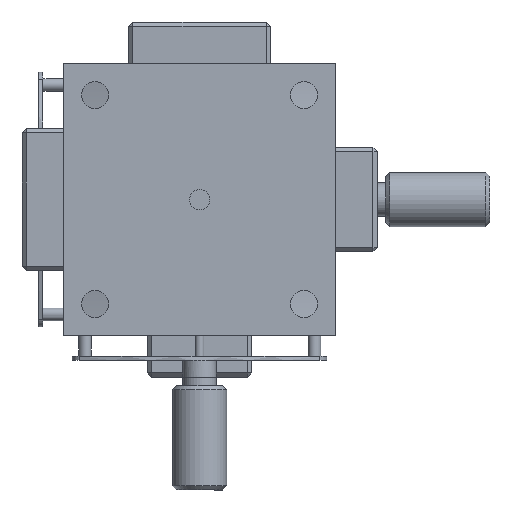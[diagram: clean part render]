
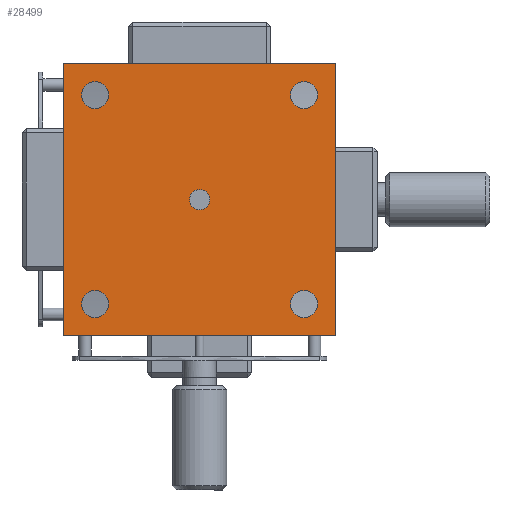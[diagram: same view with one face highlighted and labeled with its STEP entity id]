
A CAD part, front view. The second image highlights one B-rep face of the part: STEP entity #28499.
In plain terms, the highlighted planar face has unit normal (0, -1, 0).
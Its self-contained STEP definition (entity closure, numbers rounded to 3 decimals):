
#517 = ORIENTED_EDGE ( 'NONE', *, *, #14656, .F. ) ;
#701 = EDGE_LOOP ( 'NONE', ( #517, #11171 ) ) ;
#1220 = CARTESIAN_POINT ( 'NONE',  ( -34.151, 35.938, 144.111 ) ) ;
#1322 = EDGE_CURVE ( 'NONE', #36167, #20614, #3690, .T. ) ;
#1500 = EDGE_CURVE ( 'NONE', #2529, #21094, #21735, .T. ) ;
#1939 = DIRECTION ( 'NONE',  ( 0., -1., 0. ) ) ;
#2145 = LINE ( 'NONE', #20033, #6942 ) ;
#2214 = FACE_BOUND ( 'NONE', #24524, .T. ) ;
#2395 = AXIS2_PLACEMENT_3D ( 'NONE', #11264, #33134, #5689 ) ;
#2529 = VERTEX_POINT ( 'NONE', #18634 ) ;
#2792 = CARTESIAN_POINT ( 'NONE',  ( -26.651, 35.938, 86.611 ) ) ;
#2854 = AXIS2_PLACEMENT_3D ( 'NONE', #29138, #19703, #13527 ) ;
#3254 = LINE ( 'NONE', #18429, #28510 ) ;
#3690 = LINE ( 'NONE', #18434, #32723 ) ;
#4957 = ORIENTED_EDGE ( 'NONE', *, *, #19247, .F. ) ;
#4979 = CARTESIAN_POINT ( 'NONE',  ( 23.349, 35.938, 89.861 ) ) ;
#5406 = AXIS2_PLACEMENT_3D ( 'NONE', #2792, #33042, #36261 ) ;
#5473 = PLANE ( 'NONE',  #36089 ) ;
#5518 = VECTOR ( 'NONE', #32287, 1000. ) ;
#5555 = CIRCLE ( 'NONE', #34931, 3.25 ) ;
#5689 = DIRECTION ( 'NONE',  ( 0., 0., -1. ) ) ;
#5722 = CARTESIAN_POINT ( 'NONE',  ( -34.151, 35.938, 144.111 ) ) ;
#5887 = DIRECTION ( 'NONE',  ( 0., -1., 0. ) ) ;
#6031 = ORIENTED_EDGE ( 'NONE', *, *, #26373, .F. ) ;
#6508 = VERTEX_POINT ( 'NONE', #34906 ) ;
#6518 = CIRCLE ( 'NONE', #32472, 3.25 ) ;
#6942 = VECTOR ( 'NONE', #10474, 1000. ) ;
#7509 = VERTEX_POINT ( 'NONE', #35705 ) ;
#7979 = AXIS2_PLACEMENT_3D ( 'NONE', #22416, #13093, #25488 ) ;
#8820 = DIRECTION ( 'NONE',  ( 0., 0., -1. ) ) ;
#9398 = CARTESIAN_POINT ( 'NONE',  ( -26.651, 35.938, 86.611 ) ) ;
#9965 = DIRECTION ( 'NONE',  ( 0., -1., 0. ) ) ;
#10096 = DIRECTION ( 'NONE',  ( 0., 0., -1. ) ) ;
#10328 = FACE_OUTER_BOUND ( 'NONE', #21288, .T. ) ;
#10474 = DIRECTION ( 'NONE',  ( 0., 0., -1. ) ) ;
#10862 = CARTESIAN_POINT ( 'NONE',  ( 23.349, 35.938, 86.611 ) ) ;
#11030 = CARTESIAN_POINT ( 'NONE',  ( -34.151, 35.938, 79.111 ) ) ;
#11056 = VERTEX_POINT ( 'NONE', #15256 ) ;
#11171 = ORIENTED_EDGE ( 'NONE', *, *, #37249, .F. ) ;
#11250 = VERTEX_POINT ( 'NONE', #13621 ) ;
#11264 = CARTESIAN_POINT ( 'NONE',  ( 23.349, 35.938, 136.611 ) ) ;
#11366 = CARTESIAN_POINT ( 'NONE',  ( -26.651, 35.938, 136.611 ) ) ;
#11436 = CARTESIAN_POINT ( 'NONE',  ( 23.349, 35.938, 83.361 ) ) ;
#11890 = DIRECTION ( 'NONE',  ( 0., 0., -1. ) ) ;
#12120 = ORIENTED_EDGE ( 'NONE', *, *, #1322, .F. ) ;
#12333 = EDGE_LOOP ( 'NONE', ( #28893, #29986 ) ) ;
#13006 = CIRCLE ( 'NONE', #19393, 2.425 ) ;
#13093 = DIRECTION ( 'NONE',  ( 0., -1., 0. ) ) ;
#13527 = DIRECTION ( 'NONE',  ( 0., 0., -1. ) ) ;
#13621 = CARTESIAN_POINT ( 'NONE',  ( 30.849, 35.938, 144.111 ) ) ;
#13876 = EDGE_CURVE ( 'NONE', #25840, #14395, #39012, .T. ) ;
#14003 = CIRCLE ( 'NONE', #15205, 3.25 ) ;
#14395 = VERTEX_POINT ( 'NONE', #29379 ) ;
#14409 = DIRECTION ( 'NONE',  ( 0., -1., 0. ) ) ;
#14422 = CIRCLE ( 'NONE', #20005, 2.425 ) ;
#14656 = EDGE_CURVE ( 'NONE', #37551, #37172, #33732, .T. ) ;
#14755 = EDGE_CURVE ( 'NONE', #21094, #2529, #6518, .T. ) ;
#15205 = AXIS2_PLACEMENT_3D ( 'NONE', #9398, #15897, #30721 ) ;
#15225 = CIRCLE ( 'NONE', #2854, 3.25 ) ;
#15256 = CARTESIAN_POINT ( 'NONE',  ( -1.651, 35.938, 109.186 ) ) ;
#15897 = DIRECTION ( 'NONE',  ( 0., -1., 0. ) ) ;
#16128 = AXIS2_PLACEMENT_3D ( 'NONE', #10862, #1939, #23063 ) ;
#17722 = DIRECTION ( 'NONE',  ( 0., 0., 1. ) ) ;
#17850 = ORIENTED_EDGE ( 'NONE', *, *, #22573, .F. ) ;
#17938 = EDGE_LOOP ( 'NONE', ( #38923, #17850 ) ) ;
#18144 = EDGE_CURVE ( 'NONE', #26033, #36167, #3254, .T. ) ;
#18429 = CARTESIAN_POINT ( 'NONE',  ( -34.151, 35.938, 79.111 ) ) ;
#18434 = CARTESIAN_POINT ( 'NONE',  ( -34.151, 35.938, 144.111 ) ) ;
#18634 = CARTESIAN_POINT ( 'NONE',  ( -26.651, 35.938, 139.861 ) ) ;
#18845 = DIRECTION ( 'NONE',  ( 0., -1., 0. ) ) ;
#19247 = EDGE_CURVE ( 'NONE', #14395, #25840, #14003, .T. ) ;
#19393 = AXIS2_PLACEMENT_3D ( 'NONE', #34630, #9965, #10096 ) ;
#19703 = DIRECTION ( 'NONE',  ( 0., -1., 0. ) ) ;
#20005 = AXIS2_PLACEMENT_3D ( 'NONE', #37129, #18845, #36734 ) ;
#20033 = CARTESIAN_POINT ( 'NONE',  ( 30.849, 35.938, 144.111 ) ) ;
#20272 = CARTESIAN_POINT ( 'NONE',  ( -34.151, 35.938, 144.111 ) ) ;
#20614 = VERTEX_POINT ( 'NONE', #1220 ) ;
#21094 = VERTEX_POINT ( 'NONE', #29619 ) ;
#21288 = EDGE_LOOP ( 'NONE', ( #29552, #36907, #12120, #33608 ) ) ;
#21720 = FACE_BOUND ( 'NONE', #17938, .T. ) ;
#21735 = CIRCLE ( 'NONE', #7979, 3.25 ) ;
#22416 = CARTESIAN_POINT ( 'NONE',  ( -26.651, 35.938, 136.611 ) ) ;
#22573 = EDGE_CURVE ( 'NONE', #6508, #7509, #15225, .T. ) ;
#22961 = CIRCLE ( 'NONE', #2395, 3.25 ) ;
#23063 = DIRECTION ( 'NONE',  ( 0., 0., -1. ) ) ;
#24127 = CARTESIAN_POINT ( 'NONE',  ( -1.651, 35.938, 114.036 ) ) ;
#24524 = EDGE_LOOP ( 'NONE', ( #6031, #33171 ) ) ;
#25035 = CARTESIAN_POINT ( 'NONE',  ( -26.651, 35.938, 89.861 ) ) ;
#25488 = DIRECTION ( 'NONE',  ( 0., 0., -1. ) ) ;
#25526 = EDGE_LOOP ( 'NONE', ( #4957, #30954 ) ) ;
#25544 = FACE_BOUND ( 'NONE', #25526, .T. ) ;
#25572 = EDGE_CURVE ( 'NONE', #20614, #11250, #36543, .T. ) ;
#25840 = VERTEX_POINT ( 'NONE', #25035 ) ;
#26033 = VERTEX_POINT ( 'NONE', #39010 ) ;
#26373 = EDGE_CURVE ( 'NONE', #11056, #33888, #13006, .T. ) ;
#27138 = DIRECTION ( 'NONE',  ( 0., 1., 0. ) ) ;
#27918 = FACE_BOUND ( 'NONE', #701, .T. ) ;
#28499 = ADVANCED_FACE ( 'NONE', ( #10328, #2214, #21720, #27918, #25544, #28900 ), #5473, .F. ) ;
#28510 = VECTOR ( 'NONE', #36311, 1000. ) ;
#28893 = ORIENTED_EDGE ( 'NONE', *, *, #14755, .F. ) ;
#28900 = FACE_BOUND ( 'NONE', #12333, .T. ) ;
#29138 = CARTESIAN_POINT ( 'NONE',  ( 23.349, 35.938, 136.611 ) ) ;
#29303 = EDGE_CURVE ( 'NONE', #11250, #26033, #2145, .T. ) ;
#29379 = CARTESIAN_POINT ( 'NONE',  ( -26.651, 35.938, 83.361 ) ) ;
#29552 = ORIENTED_EDGE ( 'NONE', *, *, #29303, .F. ) ;
#29619 = CARTESIAN_POINT ( 'NONE',  ( -26.651, 35.938, 133.361 ) ) ;
#29852 = CARTESIAN_POINT ( 'NONE',  ( 23.349, 35.938, 86.611 ) ) ;
#29882 = EDGE_CURVE ( 'NONE', #33888, #11056, #14422, .T. ) ;
#29986 = ORIENTED_EDGE ( 'NONE', *, *, #1500, .F. ) ;
#30696 = DIRECTION ( 'NONE',  ( 0., 0., 1. ) ) ;
#30721 = DIRECTION ( 'NONE',  ( 0., 0., -1. ) ) ;
#30954 = ORIENTED_EDGE ( 'NONE', *, *, #13876, .F. ) ;
#32287 = DIRECTION ( 'NONE',  ( 1., 0., 0. ) ) ;
#32472 = AXIS2_PLACEMENT_3D ( 'NONE', #11366, #14409, #11890 ) ;
#32723 = VECTOR ( 'NONE', #30696, 1000. ) ;
#33042 = DIRECTION ( 'NONE',  ( 0., -1., 0. ) ) ;
#33134 = DIRECTION ( 'NONE',  ( 0., -1., 0. ) ) ;
#33171 = ORIENTED_EDGE ( 'NONE', *, *, #29882, .F. ) ;
#33608 = ORIENTED_EDGE ( 'NONE', *, *, #18144, .F. ) ;
#33732 = CIRCLE ( 'NONE', #16128, 3.25 ) ;
#33888 = VERTEX_POINT ( 'NONE', #24127 ) ;
#34630 = CARTESIAN_POINT ( 'NONE',  ( -1.651, 35.938, 111.611 ) ) ;
#34906 = CARTESIAN_POINT ( 'NONE',  ( 23.349, 35.938, 139.861 ) ) ;
#34931 = AXIS2_PLACEMENT_3D ( 'NONE', #29852, #5887, #8820 ) ;
#35011 = EDGE_CURVE ( 'NONE', #7509, #6508, #22961, .T. ) ;
#35705 = CARTESIAN_POINT ( 'NONE',  ( 23.349, 35.938, 133.361 ) ) ;
#36089 = AXIS2_PLACEMENT_3D ( 'NONE', #5722, #27138, #17722 ) ;
#36167 = VERTEX_POINT ( 'NONE', #11030 ) ;
#36261 = DIRECTION ( 'NONE',  ( 0., 0., -1. ) ) ;
#36311 = DIRECTION ( 'NONE',  ( -1., 0., 0. ) ) ;
#36543 = LINE ( 'NONE', #20272, #5518 ) ;
#36734 = DIRECTION ( 'NONE',  ( 0., 0., -1. ) ) ;
#36907 = ORIENTED_EDGE ( 'NONE', *, *, #25572, .F. ) ;
#37129 = CARTESIAN_POINT ( 'NONE',  ( -1.651, 35.938, 111.611 ) ) ;
#37172 = VERTEX_POINT ( 'NONE', #4979 ) ;
#37249 = EDGE_CURVE ( 'NONE', #37172, #37551, #5555, .T. ) ;
#37551 = VERTEX_POINT ( 'NONE', #11436 ) ;
#38923 = ORIENTED_EDGE ( 'NONE', *, *, #35011, .F. ) ;
#39010 = CARTESIAN_POINT ( 'NONE',  ( 30.849, 35.938, 79.111 ) ) ;
#39012 = CIRCLE ( 'NONE', #5406, 3.25 ) ;
